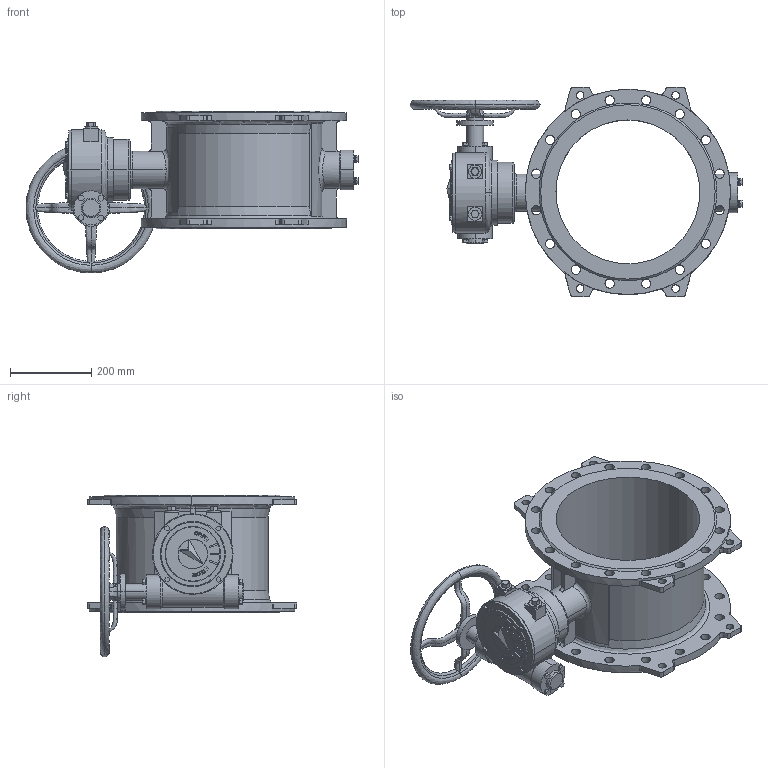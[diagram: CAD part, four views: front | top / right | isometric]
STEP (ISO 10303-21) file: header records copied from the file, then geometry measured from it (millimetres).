
FILE_DESCRIPTION (( 'STEP AP203' ), '1' );
FILE_NAME ('DN350 PN10.STEP', '2015-01-05T08:25:12', ( 'FAREX' ), ( '' ), 'SwSTEP 2.0', 'SolidWorks 2011', '' );
FILE_SCHEMA (( 'CONFIG_CONTROL_DESIGN' ));
Length unit declared in the file: millimetre
Products named in the file (1): DN350 PN10
Bounding box: 816.7 x 515 x 398.35 mm (x, y, z)
Volume: 14751329.7 mm3; surface area: 1526147 mm2
Topology: 3 solids, 3 shells, 678 faces, 1836 edges, 1200 vertices
Faces by surface type: plane 334, cylinder 215, bspline 94, cone 35
Entity records: 32217 total; most frequent: CARTESIAN_POINT 15310, ORIENTED_EDGE 3608, DIRECTION 3321, EDGE_CURVE 1804, VERTEX_POINT 1184, AXIS2_PLACEMENT_3D 1176, LINE 969, VECTOR 969
